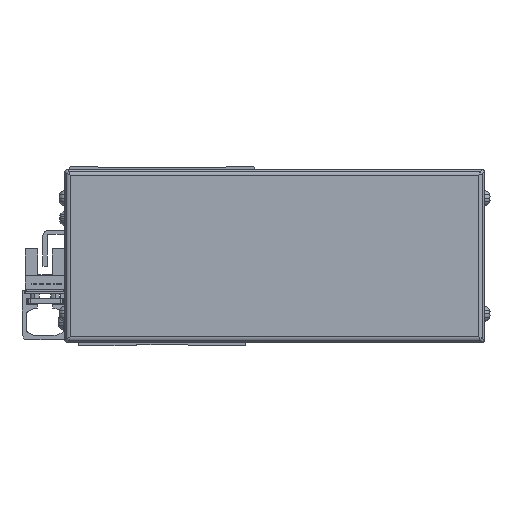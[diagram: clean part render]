
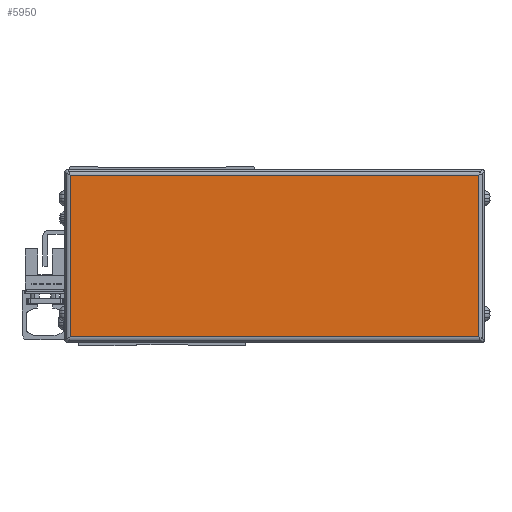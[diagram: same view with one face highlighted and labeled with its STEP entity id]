
A CAD part, front view. The second image highlights one B-rep face of the part: STEP entity #5950.
In plain terms, the highlighted planar face has unit normal (0, -1, 0).
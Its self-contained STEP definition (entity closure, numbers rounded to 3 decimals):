
#5950=ADVANCED_FACE('',(#12484),#12485,.T.);
#12484=FACE_OUTER_BOUND('',#20604,.T.);
#12485=PLANE('',#20605);
#20604=EDGE_LOOP('',(#37218,#37219,#37220,#37221));
#20605=AXIS2_PLACEMENT_3D('',#37222,#37223,#37224);
#37218=ORIENTED_EDGE('',*,*,#50582,.F.);
#37219=ORIENTED_EDGE('',*,*,#44236,.F.);
#37220=ORIENTED_EDGE('',*,*,#46898,.F.);
#37221=ORIENTED_EDGE('',*,*,#50583,.F.);
#37222=CARTESIAN_POINT('',(339.,-19.,-4.));
#37223=DIRECTION('',(0.,-1.0,0.));
#37224=DIRECTION('',(0.,0.,1.0));
#44236=EDGE_CURVE('',#52723,#52725,#52726,.T.);
#46898=EDGE_CURVE('',#52614,#52723,#57270,.T.);
#50582=EDGE_CURVE('',#52725,#53890,#62421,.T.);
#50583=EDGE_CURVE('',#53890,#52614,#62422,.T.);
#52614=VERTEX_POINT('',#64825);
#52723=VERTEX_POINT('',#64975);
#52725=VERTEX_POINT('',#64977);
#52726=LINE('',#64978,#64979);
#53890=VERTEX_POINT('',#66523);
#57270=LINE('',#71310,#71311);
#62421=LINE('',#78866,#78867);
#62422=LINE('',#78868,#78869);
#64825=CARTESIAN_POINT('',(409.7,-19.,-32.));
#64975=CARTESIAN_POINT('',(268.3,-19.,-32.));
#64977=CARTESIAN_POINT('',(268.3,-19.,24.));
#64978=CARTESIAN_POINT('',(268.3,-19.,-4.));
#64979=VECTOR('',#81257,10.0);
#66523=CARTESIAN_POINT('',(409.7,-19.,24.));
#71310=CARTESIAN_POINT('',(339.,-19.,-32.));
#71311=VECTOR('',#84678,10.0);
#78866=CARTESIAN_POINT('',(339.,-19.,24.));
#78867=VECTOR('',#88819,10.0);
#78868=CARTESIAN_POINT('',(409.7,-19.,-4.));
#78869=VECTOR('',#88820,10.0);
#81257=DIRECTION('',(0.,0.,1.0));
#84678=DIRECTION('',(-1.0,0.,0.));
#88819=DIRECTION('',(1.0,0.,0.));
#88820=DIRECTION('',(0.,0.,-1.0));
